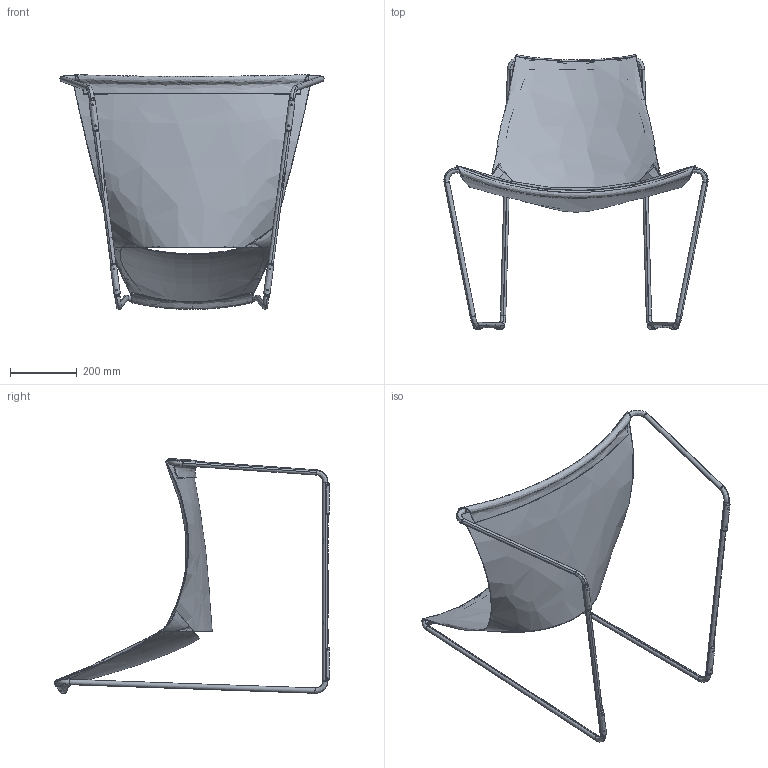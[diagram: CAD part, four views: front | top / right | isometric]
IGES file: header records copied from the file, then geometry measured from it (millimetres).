
Start section: SolidWorks IGES file using NURBS representation for surfaces
Global section: file name: R:\UFFICIO TECNICO\ARCHIVIO DISEGNI\3D\APELLE ATT.IGS; native system: SolidWorks 2011; preprocessor: SolidWorks 2011; author: Alberto; date: 141003.122148; units: millimetre
Bounding box: 794.63 x 825.78 x 706.11 mm (x, y, z)
Surface area: 1689602.2 mm2 (no closed solid volume)
Topology: 0 solids, 0 shells, 291 faces, 4737 edges, 4762 vertices
Faces by surface type: bspline 291
